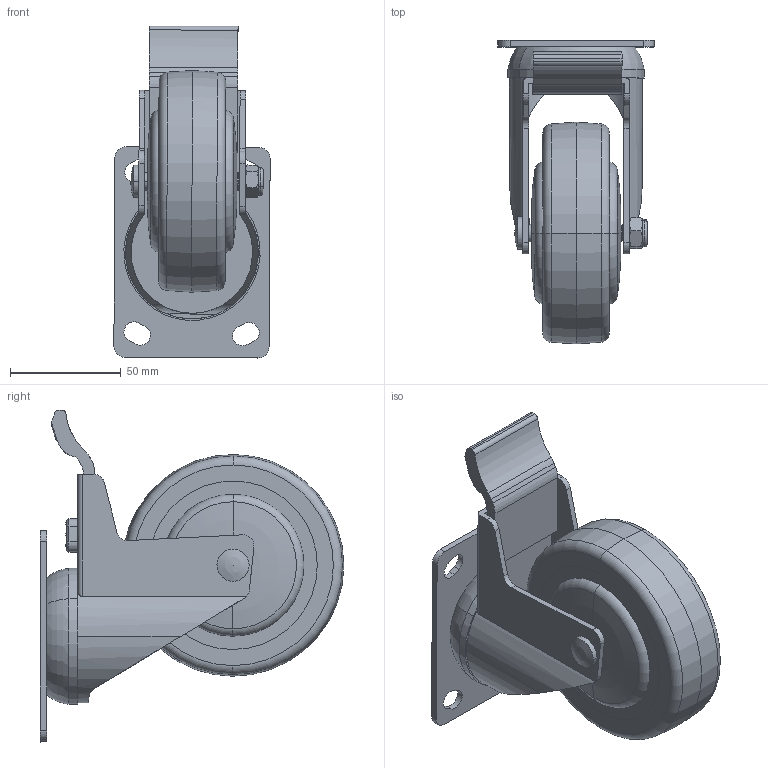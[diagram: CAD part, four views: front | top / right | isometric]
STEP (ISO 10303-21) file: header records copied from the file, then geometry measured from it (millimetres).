
FILE_DESCRIPTION (( 'STEP AP214' ), '1' );
FILE_NAME ('WCB100-P-TB.step', '2024-01-12T00:38:56', ( '' ), ( '' ), 'SwSTEP 2.0', 'SolidWorks 2022', '' );
FILE_SCHEMA (( 'AUTOMOTIVE_DESIGN' ));
Length unit declared in the file: millimetre
Products named in the file (9): 95X70 WC ; WC-M8x55; M8Nyloc; 61.5 TOP CAP; MCB100; BREAK; WCB100-P-TB; WCR100-P-TB; break step
Assembly tree (8 placements, depth 2):
  WCB100-P-TB
    WC-M8x55
    M8Nyloc
    61.5 TOP CAP
    WCR100-P-TB
    BREAK
    break step
    95X70 WC 
    MCB100
Bounding box: 70.48 x 137.02 x 149.75 mm (x, y, z)
Volume: 361980.8 mm3; surface area: 85347.9 mm2
Topology: 8 solids, 8 shells, 704 faces, 1894 edges, 1251 vertices
Faces by surface type: plane 356, bspline 195, cylinder 112, torus 22, cone 18, sphere 1
Entity records: 35732 total; most frequent: CARTESIAN_POINT 18430, ORIENTED_EDGE 3782, DIRECTION 2639, EDGE_CURVE 1891, VERTEX_POINT 1249, VECTOR 1173, LINE 1173, EDGE_LOOP 770
